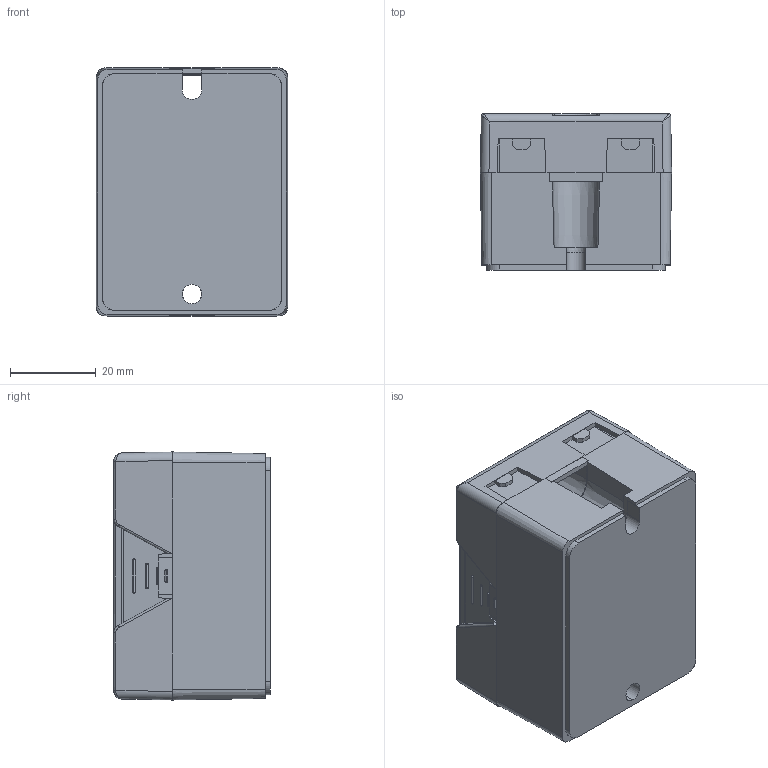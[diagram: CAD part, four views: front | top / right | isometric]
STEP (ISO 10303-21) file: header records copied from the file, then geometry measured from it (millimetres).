
FILE_DESCRIPTION (( 'STEP AP214' ), '1' );
FILE_NAME ('ssr08.STEP', '2013-09-11T09:10:54', ( 'samsung user' ), ( '' ), 'SwSTEP 2.0', 'SolidWorks 2013', '' );
FILE_SCHEMA (( 'AUTOMOTIVE_DESIGN' ));
Length unit declared in the file: millimetre
Products named in the file (1): ssr08
Bounding box: 44.5 x 36.4 x 57.7 mm (x, y, z)
Volume: 84107.5 mm3; surface area: 23991.8 mm2
Topology: 2 solids, 5 shells, 424 faces, 1155 edges, 753 vertices
Faces by surface type: plane 271, cylinder 68, bspline 44, cone 39, sphere 2
Entity records: 16252 total; most frequent: CARTESIAN_POINT 5860, ORIENTED_EDGE 2298, DIRECTION 1855, EDGE_CURVE 1149, LINE 759, VECTOR 759, VERTEX_POINT 751, AXIS2_PLACEMENT_3D 548
